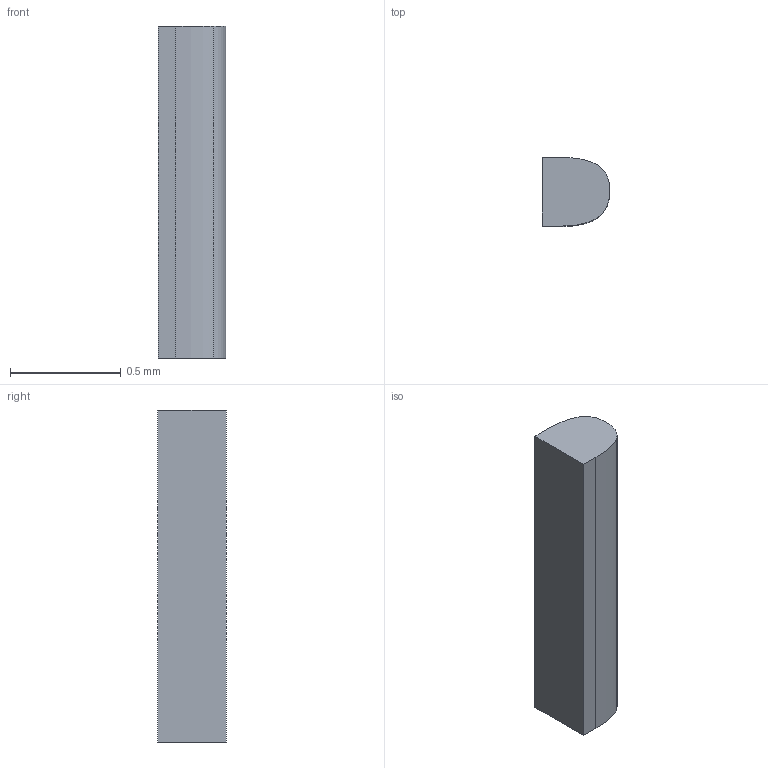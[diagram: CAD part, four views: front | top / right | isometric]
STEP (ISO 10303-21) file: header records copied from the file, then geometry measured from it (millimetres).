
FILE_DESCRIPTION(('STEP AP242 Edition 2','STEP AP242 Edition 2''CAx-IF Rec.Pracs.---Representation and Presentation of Product Manufacturing Information (PMI)---4.0---2014-10-13','STEP AP242 Edition 2''CAx-IF Rec.Pracs.---Representation and Presentation of Product Manufacturing Information (PMI)---4.0---2014-10-13''CAx-IF Rec.Pracs.---3D Tessellated Geometry---0.4---2014-09-14','STEP AP242 Edition 2''CAx-IF Rec.Pracs.---Representation and Presentation of Product Manufacturing Information (PMI)---4.0---2014-10-13''CAx-IF Rec.Pracs.---3D Tessellated Geometry---0.4---2014-09-14''2;1','STEP AP242 Edition 2''CAx-IF Rec.Pracs.---Representation and Presentation of Product Manufacturing Information (PMI)---4.0---2014-10-13''CAx-IF Rec.Pracs.---3D Tessellated Geometry---0.4---2014-09-14''2;1''CAx-IF Rec.Pracs.---User Defined Attributes---1.5---2016-08-15'),'2;1');
FILE_NAME('/vol/tmp/translate-17016349319801364938/Part Studio 2 - Part 3.step','2026-03-29T21:16:22',(''),(''),'ST-DEVELOPER v20','ONSHAPE BY PTC INC, 1.212',' ');
FILE_SCHEMA(('AP242_MANAGED_MODEL_BASED_3D_ENGINEERING_MIM_LF { 1 0 10303 442 3 1 4 }'));
Length unit declared in the file: metre
Products named in the file (1): Part 3
Bounding box: 0.3 x 0.31 x 1.5 mm (x, y, z)
Volume: 0.1 mm3; surface area: 1.8 mm2
Topology: 1 solids, 1 shells, 9 faces, 21 edges, 14 vertices
Faces by surface type: plane 5, bspline 2, cylinder 2
Entity records: 289 total; most frequent: CARTESIAN_POINT 67, ORIENTED_EDGE 42, DIRECTION 37, EDGE_CURVE 21, VERTEX_POINT 14, LINE 13, VECTOR 13, AXIS2_PLACEMENT_3D 12
